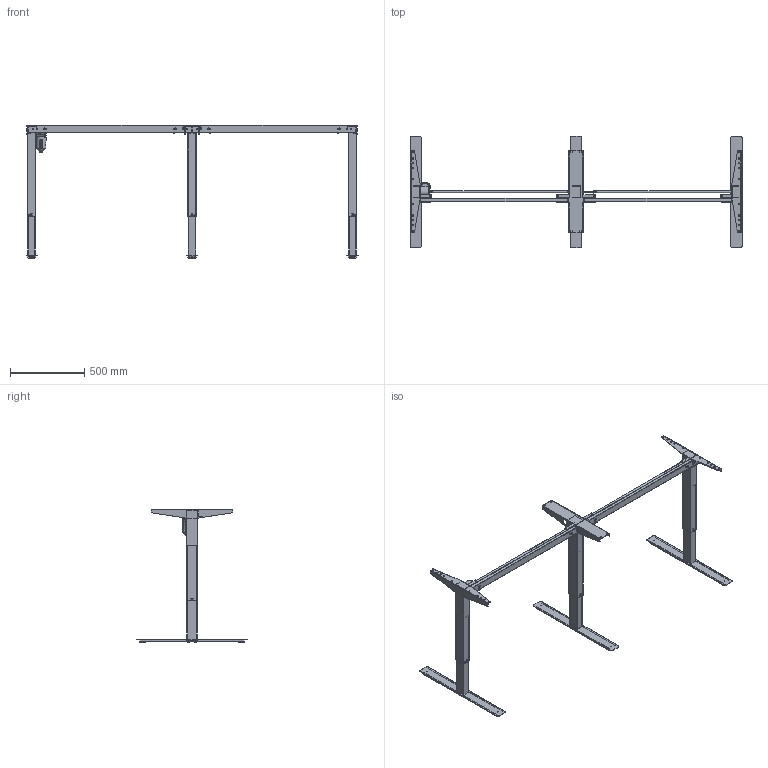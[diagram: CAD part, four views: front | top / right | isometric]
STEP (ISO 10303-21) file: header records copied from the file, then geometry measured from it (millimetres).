
FILE_DESCRIPTION (( 'STEP AP203' ), '1' );
FILE_NAME ('Tech-draw_501-47_XX222.STEP', '2020-12-21T07:44:03', ( '' ), ( '' ), 'SwSTEP 2.0', 'SolidWorks 2020', '' );
FILE_SCHEMA (( 'CONFIG_CONTROL_DESIGN' ));
Length unit declared in the file: millimetre
Products named in the file (46): 352190; 150630_chrome; 347920_112; 341220; 352130; 324520; 150650_chrome; 352360_silver; 151180_chrome; 150610_chrome1; 352150; 340560; 151440_chrome; 304650; 352160; Tech-draw_501-47_XX222; 341800; 352140_shell view; 340540_shell view; 326900; 151670_501-47 XC222; 352200; 352350_silver; 150600_chrome; 352370; 345600; 347910_112; 324520_silver; 352690; 348720_shell view; 344820_shell view; 344430_silver; 150660_chrome; 352300_shell view; 144260_112; 345610_shell view; 340760; 140860_chrome1; 352610; 150690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
Assembly tree (97 placements, depth 5):
  Tech-draw_501-47_XX222
    151670_501-47 XC222
      150600_chrome
        150610_chrome1
          345600
          352140_shell view
          352130
        151180_chrome
          352370
          352690
        324520  x2
        341800  x2
        150690
          352190
          352200
        352350_silver
        352360_silver
        151440_chrome
          352160
          352150
        304650  x4
      347910_112  x2
      144260_112
        347920_112
        340560
        341220
      144260_112
        347920_112
        340560
        341220
      150650_chrome
        140860_chrome1
          345610_shell view
          344820_shell view
          348720_shell view
        150630_chrome
          352300_shell view
          352690
        324520_silver  x2
        341800  x2
        326900  x2
        344430_silver
        352360_silver
        352350_silver
        151440_chrome
          352160
          352150
        304650  x4
        352610
      150660_chrome
        140850_chrome1
          345600
          344820_shell view
          340540_shell view
        150630_chrome
          352300_shell view
          352690
        324520  x2
        341800  x2
        352350_silver
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Bounding box: 2233 x 750 x 901.26 mm (x, y, z)
Volume: 4368996.2 mm3; surface area: 3979822.3 mm2
Topology: 81 solids, 81 shells, 7295 faces, 18916 edges, 12006 vertices
Faces by surface type: plane 3787, cylinder 2153, bspline 850, cone 275, torus 182, sphere 48
Full cylindrical faces by diameter (mm): 2.8 x6, 3 x4, 3.3 x2, 4.6 x8, 5 x46, 6 x32, 6.7 x12, 7 x16, 7.6 x8, 8 x24, 8.2 x2, 8.5 x2, 10 x17, 11.9 x4, 12 x2, 13 x4, 15 x7, 16 x3, 18 x2, 20 x4, 24 x1, 37.6 x12, 60 x1
Entity records: 145819 total; most frequent: CARTESIAN_POINT 58394, ORIENTED_EDGE 17438, DIRECTION 15998, EDGE_CURVE 8719, VERTEX_POINT 5653, AXIS2_PLACEMENT_3D 5588, VECTOR 4822, LINE 4822
